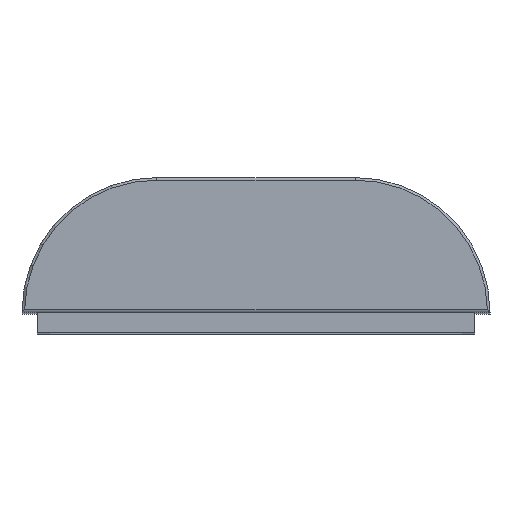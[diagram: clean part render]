
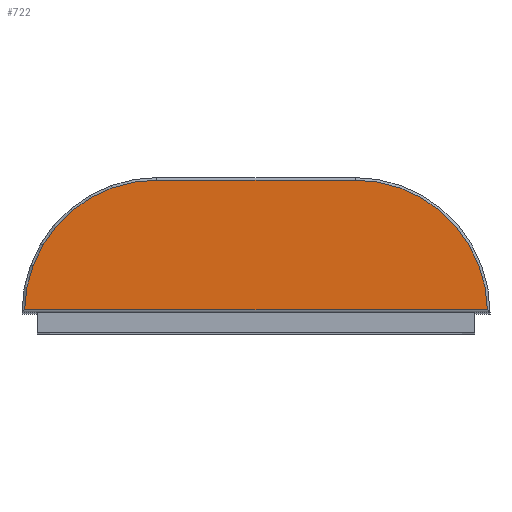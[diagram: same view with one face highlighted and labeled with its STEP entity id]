
A CAD part, top view. The second image highlights one B-rep face of the part: STEP entity #722.
In plain terms, the highlighted planar face has unit normal (0, 0, 1).
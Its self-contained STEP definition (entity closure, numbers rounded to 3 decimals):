
#16 = DIRECTION ( 'NONE',  ( 1., 0., 0. ) ) ;
#67 = EDGE_CURVE ( 'NONE', #831, #313, #1633, .T. ) ;
#112 = CARTESIAN_POINT ( 'NONE',  ( 7.8, 0., 39. ) ) ;
#114 = EDGE_CURVE ( 'NONE', #313, #224, #584, .T. ) ;
#155 = EDGE_CURVE ( 'NONE', #224, #685, #552, .T. ) ;
#165 = EDGE_CURVE ( 'NONE', #685, #831, #872, .T. ) ;
#224 = VERTEX_POINT ( 'NONE', #1554 ) ;
#225 = DIRECTION ( 'NONE',  ( 1., 0., 0. ) ) ;
#233 = CARTESIAN_POINT ( 'NONE',  ( 7.8, 0., 39. ) ) ;
#313 = VERTEX_POINT ( 'NONE', #608 ) ;
#457 = VECTOR ( 'NONE', #815, 1000. ) ;
#464 = PLANE ( 'NONE',  #1559 ) ;
#552 = LINE ( 'NONE', #676, #701 ) ;
#572 = DIRECTION ( 'NONE',  ( 0., 0., 1. ) ) ;
#580 = DIRECTION ( 'NONE',  ( 0., 0., 1. ) ) ;
#584 = CIRCLE ( 'NONE', #1071, 10.4 ) ;
#603 = ORIENTED_EDGE ( 'NONE', *, *, #114, .T. ) ;
#608 = CARTESIAN_POINT ( 'NONE',  ( -7.8, 10.4, 39. ) ) ;
#667 = CARTESIAN_POINT ( 'NONE',  ( 7.8, 10.4, 39. ) ) ;
#676 = CARTESIAN_POINT ( 'NONE',  ( 7.8, 0.2, 39. ) ) ;
#685 = VERTEX_POINT ( 'NONE', #858 ) ;
#701 = VECTOR ( 'NONE', #16, 1000. ) ;
#722 = ADVANCED_FACE ( 'NONE', ( #1197 ), #464, .T. ) ;
#815 = DIRECTION ( 'NONE',  ( -1., 0., 0. ) ) ;
#831 = VERTEX_POINT ( 'NONE', #667 ) ;
#858 = CARTESIAN_POINT ( 'NONE',  ( 18.198, 0.2, 39. ) ) ;
#872 = CIRCLE ( 'NONE', #1006, 10.4 ) ;
#919 = DIRECTION ( 'NONE',  ( 0., 0., 1. ) ) ;
#1006 = AXIS2_PLACEMENT_3D ( 'NONE', #112, #919, #225 ) ;
#1071 = AXIS2_PLACEMENT_3D ( 'NONE', #1387, #572, #1522 ) ;
#1113 = CARTESIAN_POINT ( 'NONE',  ( 7.8, 10.4, 39. ) ) ;
#1197 = FACE_OUTER_BOUND ( 'NONE', #1496, .T. ) ;
#1387 = CARTESIAN_POINT ( 'NONE',  ( -7.8, 0., 39. ) ) ;
#1471 = ORIENTED_EDGE ( 'NONE', *, *, #165, .T. ) ;
#1495 = ORIENTED_EDGE ( 'NONE', *, *, #67, .T. ) ;
#1496 = EDGE_LOOP ( 'NONE', ( #1495, #603, #1585, #1471 ) ) ;
#1522 = DIRECTION ( 'NONE',  ( 1., 0., 0. ) ) ;
#1532 = DIRECTION ( 'NONE',  ( 1., 0., 0. ) ) ;
#1554 = CARTESIAN_POINT ( 'NONE',  ( -18.198, 0.2, 39. ) ) ;
#1559 = AXIS2_PLACEMENT_3D ( 'NONE', #233, #580, #1532 ) ;
#1585 = ORIENTED_EDGE ( 'NONE', *, *, #155, .T. ) ;
#1633 = LINE ( 'NONE', #1113, #457 ) ;
